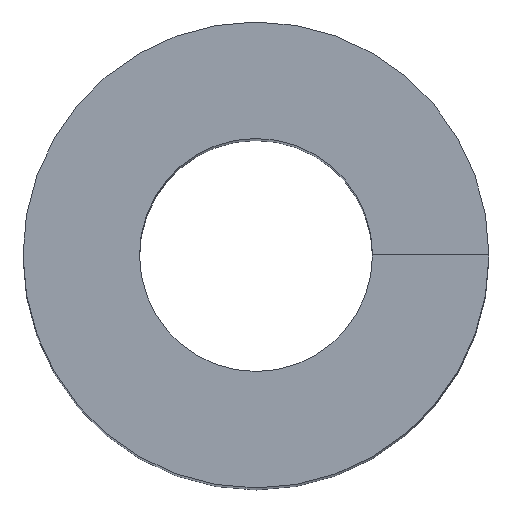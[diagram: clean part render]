
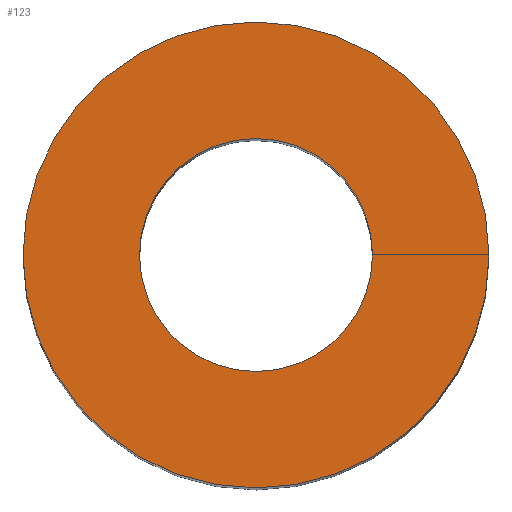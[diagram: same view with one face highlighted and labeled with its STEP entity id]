
A CAD part, top view. The second image highlights one B-rep face of the part: STEP entity #123.
In plain terms, the highlighted planar face has unit normal (0, 0, 1).
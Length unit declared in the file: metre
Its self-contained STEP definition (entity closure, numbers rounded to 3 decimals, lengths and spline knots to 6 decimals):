
#21 = EDGE_CURVE('',#22,#24,#26,.T.);
#22 = VERTEX_POINT('',#23);
#23 = CARTESIAN_POINT('',(0.025,0.,0.125));
#24 = VERTEX_POINT('',#25);
#25 = CARTESIAN_POINT('',(0.025,0.000044,0.125));
#26 = CIRCLE('',#27,0.025);
#27 = AXIS2_PLACEMENT_3D('',#28,#29,#30);
#28 = CARTESIAN_POINT('',(0.,0.,0.125));
#29 = DIRECTION('',(0.,0.,-1.));
#30 = DIRECTION('',(1.,0.,0.));
#97 = VERTEX_POINT('',#98);
#98 = CARTESIAN_POINT('',(0.05,0.000087,0.125));
#104 = EDGE_CURVE('',#105,#97,#107,.T.);
#105 = VERTEX_POINT('',#106);
#106 = CARTESIAN_POINT('',(0.05,0.,0.125));
#107 = CIRCLE('',#108,0.05);
#108 = AXIS2_PLACEMENT_3D('',#109,#110,#111);
#109 = CARTESIAN_POINT('',(0.,0.,0.125));
#110 = DIRECTION('',(0.,0.,-1.));
#111 = DIRECTION('',(1.,0.,0.));
#123 = ADVANCED_FACE('',(#124),#140,.F.);
#124 = FACE_BOUND('',#125,.F.);
#125 = EDGE_LOOP('',(#126,#127,#133,#134));
#126 = ORIENTED_EDGE('',*,*,#104,.T.);
#127 = ORIENTED_EDGE('',*,*,#128,.T.);
#128 = EDGE_CURVE('',#97,#24,#129,.T.);
#129 = LINE('',#130,#131);
#130 = CARTESIAN_POINT('',(0.05,0.000087,0.125)
  );
#131 = VECTOR('',#132,0.001);
#132 = DIRECTION('',(-1.,-0.002,
    0.));
#133 = ORIENTED_EDGE('',*,*,#21,.F.);
#134 = ORIENTED_EDGE('',*,*,#135,.F.);
#135 = EDGE_CURVE('',#105,#22,#136,.T.);
#136 = LINE('',#137,#138);
#137 = CARTESIAN_POINT('',(0.05,0.,0.125));
#138 = VECTOR('',#139,0.001);
#139 = DIRECTION('',(-1.,0.,0.));
#140 = PLANE('',#141);
#141 = AXIS2_PLACEMENT_3D('',#142,#143,#144);
#142 = CARTESIAN_POINT('',(0.,0.,0.125));
#143 = DIRECTION('',(0.,0.,-1.));
#144 = DIRECTION('',(1.,0.,0.));
